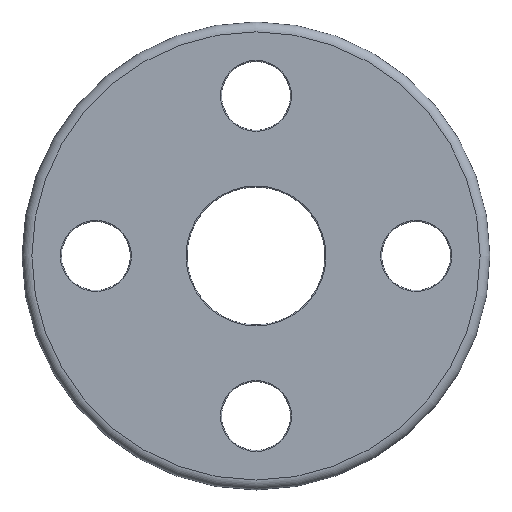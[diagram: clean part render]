
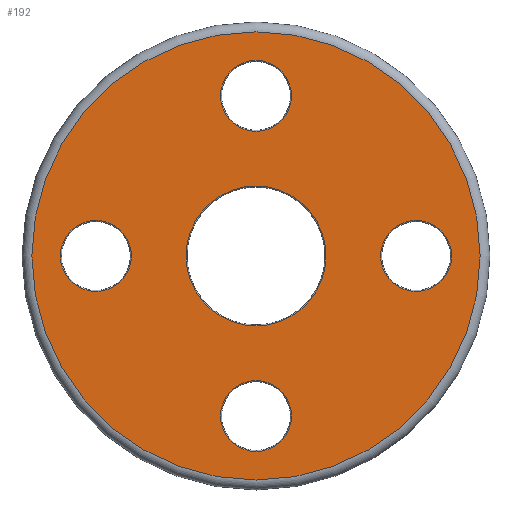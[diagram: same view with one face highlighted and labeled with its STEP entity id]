
A CAD part, top view. The second image highlights one B-rep face of the part: STEP entity #192.
In plain terms, the highlighted planar face has unit normal (0, 0, 1).
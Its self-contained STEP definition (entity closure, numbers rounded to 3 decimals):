
#21=PLANE('',#210);
#24=FACE_BOUND('',#62,.T.);
#25=FACE_BOUND('',#63,.T.);
#26=FACE_BOUND('',#64,.T.);
#27=FACE_BOUND('',#65,.T.);
#28=FACE_BOUND('',#66,.T.);
#46=FACE_OUTER_BOUND('',#61,.T.);
#61=EDGE_LOOP('',(#151));
#62=EDGE_LOOP('',(#152));
#63=EDGE_LOOP('',(#153));
#64=EDGE_LOOP('',(#154));
#65=EDGE_LOOP('',(#155));
#66=EDGE_LOOP('',(#156));
#96=CIRCLE('',#209,14.2);
#97=CIRCLE('',#211,45.5);
#98=CIRCLE('',#212,7.2);
#99=CIRCLE('',#213,7.2);
#100=CIRCLE('',#214,7.2);
#101=CIRCLE('',#215,7.2);
#114=VERTEX_POINT('',#309);
#115=VERTEX_POINT('',#312);
#116=VERTEX_POINT('',#314);
#117=VERTEX_POINT('',#316);
#118=VERTEX_POINT('',#318);
#119=VERTEX_POINT('',#320);
#132=EDGE_CURVE('',#114,#114,#96,.T.);
#133=EDGE_CURVE('',#115,#115,#97,.T.);
#134=EDGE_CURVE('',#116,#116,#98,.T.);
#135=EDGE_CURVE('',#117,#117,#99,.T.);
#136=EDGE_CURVE('',#118,#118,#100,.T.);
#137=EDGE_CURVE('',#119,#119,#101,.T.);
#151=ORIENTED_EDGE('',*,*,#133,.F.);
#152=ORIENTED_EDGE('',*,*,#134,.F.);
#153=ORIENTED_EDGE('',*,*,#135,.F.);
#154=ORIENTED_EDGE('',*,*,#136,.F.);
#155=ORIENTED_EDGE('',*,*,#137,.F.);
#156=ORIENTED_EDGE('',*,*,#132,.F.);
#192=ADVANCED_FACE('',(#46,#24,#25,#26,#27,#28),#21,.T.);
#209=AXIS2_PLACEMENT_3D('',#310,#245,#246);
#210=AXIS2_PLACEMENT_3D('',#311,#247,#248);
#211=AXIS2_PLACEMENT_3D('',#313,#249,#250);
#212=AXIS2_PLACEMENT_3D('',#315,#251,#252);
#213=AXIS2_PLACEMENT_3D('',#317,#253,#254);
#214=AXIS2_PLACEMENT_3D('',#319,#255,#256);
#215=AXIS2_PLACEMENT_3D('',#321,#257,#258);
#245=DIRECTION('center_axis',(0.,0.,1.));
#246=DIRECTION('ref_axis',(-1.,0.,0.));
#247=DIRECTION('center_axis',(0.,0.,1.));
#248=DIRECTION('ref_axis',(1.,0.,0.));
#249=DIRECTION('center_axis',(0.,0.,-1.));
#250=DIRECTION('ref_axis',(-1.,0.,0.));
#251=DIRECTION('center_axis',(0.,0.,1.));
#252=DIRECTION('ref_axis',(1.,0.,0.));
#253=DIRECTION('center_axis',(0.,0.,1.));
#254=DIRECTION('ref_axis',(-1.,0.,0.));
#255=DIRECTION('center_axis',(0.,0.,1.));
#256=DIRECTION('ref_axis',(0.,-1.,0.));
#257=DIRECTION('center_axis',(0.,0.,1.));
#258=DIRECTION('ref_axis',(0.,1.,0.));
#309=CARTESIAN_POINT('',(14.2,0.,11.));
#310=CARTESIAN_POINT('Origin',(0.,0.,11.));
#311=CARTESIAN_POINT('Origin',(0.,0.,11.));
#312=CARTESIAN_POINT('',(45.5,0.,11.));
#313=CARTESIAN_POINT('Origin',(0.,0.,11.));
#314=CARTESIAN_POINT('',(-7.2,-32.5,11.));
#315=CARTESIAN_POINT('Origin',(0.,-32.5,11.));
#316=CARTESIAN_POINT('',(7.2,32.5,11.));
#317=CARTESIAN_POINT('Origin',(0.,32.5,11.));
#318=CARTESIAN_POINT('',(-32.5,7.2,11.));
#319=CARTESIAN_POINT('Origin',(-32.5,0.,11.));
#320=CARTESIAN_POINT('',(32.5,-7.2,11.));
#321=CARTESIAN_POINT('Origin',(32.5,0.,11.));
